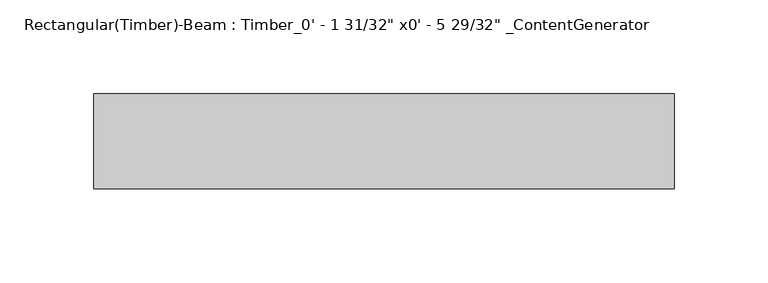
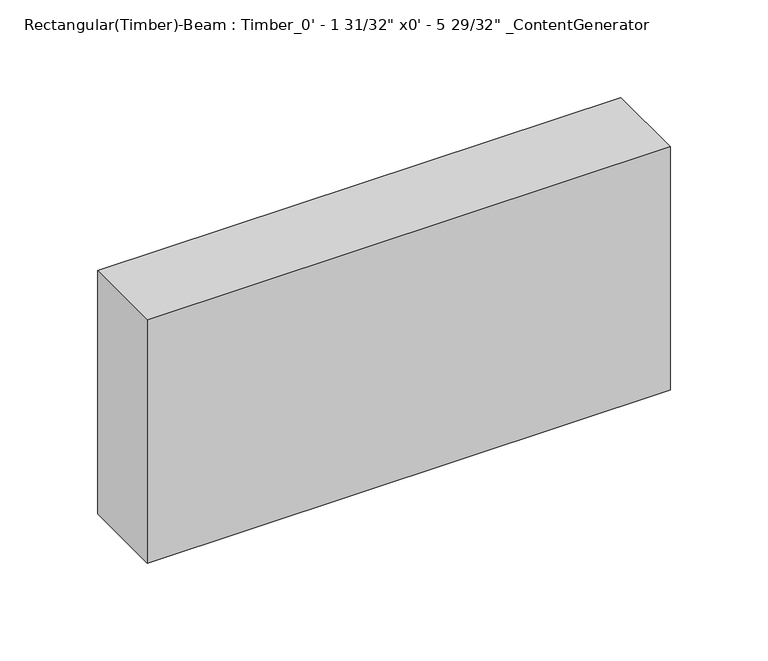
"""IFC4 building model written with IfcOpenShell, lengths in millimetres: beam geometry."""

from ifc_helpers import new_model, si_unit, frame, origin, place, context, project, spatial, polyline, outline, extrude, source, transform, mapped, element, save


def beam_2766c03a(model_context):
    return source(origin(), model_context, "Body", "SweptSolid", [
        extrude(outline(polyline([(167.6449864, 25.4), (167.6449864, -25.4), (-142.244987, -25.4), (-142.244987, 25.4), (167.6449864, 25.4)])), frame((0.0, 0.0, -76.2), z_axis=(0.0, 0.0, 1.0), x_axis=(1.0, 0.0, 0.0)), (0.0, 0.0, 1.0), 152.4),
    ])


if __name__ == "__main__":
    model = new_model("IFC4")
    model_context = context("Model", 3, world=origin())
    ifc_project = project(units=[si_unit("LENGTHUNIT", "METRE", prefix="MILLI")], contexts=[model_context])
    site = spatial("IfcSite", under=ifc_project)
    building = spatial("IfcBuilding", under=site)
    placement = place(None, origin())
    beam_shape = beam_2766c03a(model_context)
    element("IfcBeam", 1, ObjectType="Rectangular(Timber)-Beam : Timber_0' - 1 31/32\" x0' - 5 29/32\" _ContentGenerator", at=placement, inside=building, context=model_context, shape_type="MappedRepresentation", body=[
        mapped(beam_shape, transform((0.0, 0.0, 0.0), x_axis=(1.0, 0.0, 0.0), y_axis=(0.0, 1.0, 0.0), z_axis=(0.0, 0.0, 1.0))),
    ])
    save(model, "model.ifc")
